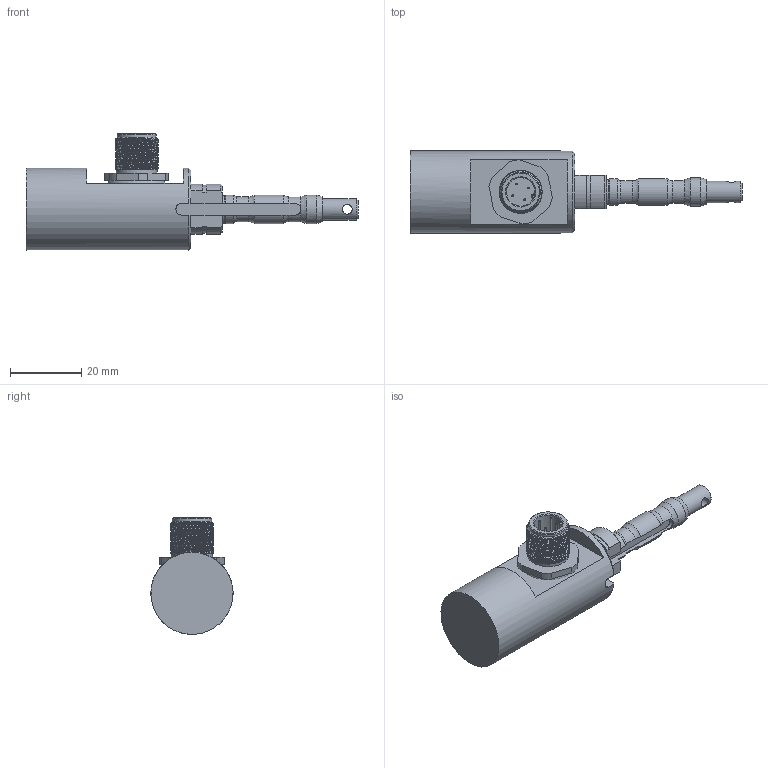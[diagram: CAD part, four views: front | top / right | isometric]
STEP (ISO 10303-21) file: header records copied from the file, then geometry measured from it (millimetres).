
FILE_DESCRIPTION(/* description */ ('Alibre Inc.'),/* implementation_level */ '2;1');
FILE_NAME(/* name */ 'export-8EEEFAB0-B537-4CF8-B782-4BB82C6E4ACE',/* time_stamp */ '2019-04-11T09:52:35+02:00',/* author */ (''),/* organization */ (''),/* preprocessor_version */ 'ST-DEVELOPER v17',/* originating_system */ 'Alibre',/* authorisation */ '');
FILE_SCHEMA (('CONFIG_CONTROL_DESIGN'));
Length unit declared in the file: centimetre
Products named in the file (3): ID_1
Bounding box: 93 x 23 x 32.63 mm (x, y, z)
Surface area: 80822.7 mm2
Topology: 6 solids, 7 shells, 176 faces, 425 edges, 270 vertices
Faces by surface type: plane 70, cylinder 58, bspline 23, cone 17, torus 8
Full cylindrical faces by diameter (mm): 0.5 x8, 2.75 x1, 6 x1, 8 x3, 10 x1, 11 x1, 11.5 x1, 13 x2, 14.5 x1, 23 x1
Entity records: 15320 total; most frequent: CARTESIAN_POINT 11721, ORIENTED_EDGE 776, DIRECTION 488, EDGE_CURVE 381, VERTEX_POINT 255, EDGE_LOOP 226, FACE_BOUND 226, AXIS2_PLACEMENT_3D 206
